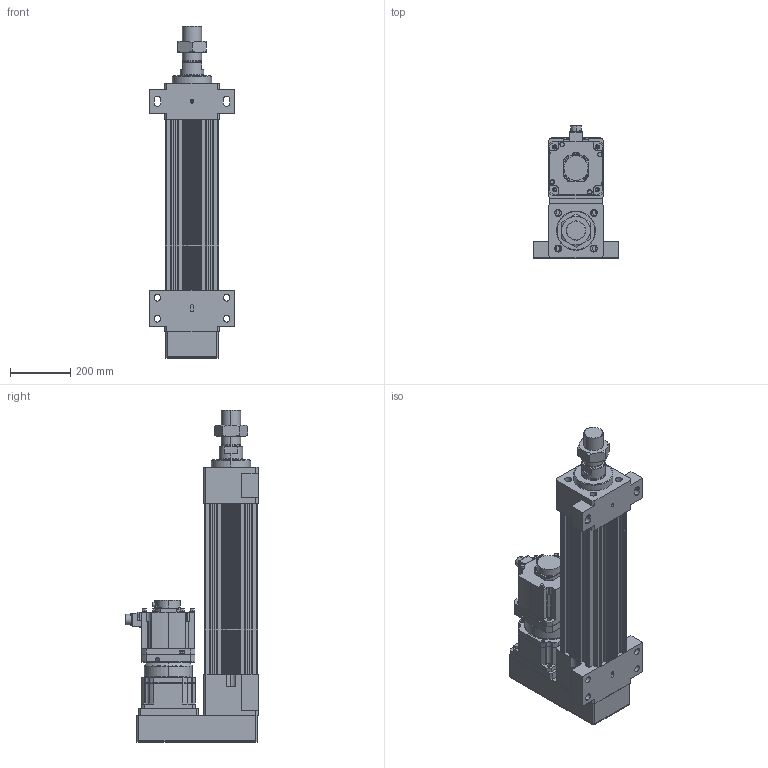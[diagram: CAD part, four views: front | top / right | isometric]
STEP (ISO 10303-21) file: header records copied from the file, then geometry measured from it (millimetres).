
FILE_DESCRIPTION (( 'STEP AP203' ), '1' );
FILE_NAME ('HES180HS-P250-W050G00-M-FFB.STEP', '2023-02-01T06:33:44', ( 'tms' ), ( '' ), 'SwSTEP 2.0', 'SolidWorks 2013', '' );
FILE_SCHEMA (( 'CONFIG_CONTROL_DESIGN' ));
Length unit declared in the file: millimetre
Products named in the file (9): HES180 ROD M ST250; HES180-P250-G180-FFB; AB180-003[HG-SR702B]; HG-SR502; HES180HS-P250-W050G00-M-FFB; P1301600001; AB1801; M64X2.0P; P0403600401
Assembly tree (8 placements, depth 3):
  HES180HS-P250-W050G00-M-FFB
    HES180-P250-G180-FFB
    HES180 ROD M ST250
    M64X2.0P
    AB180-003[HG-SR702B]
      AB1801
      P1301600001
      P0403600401
    HG-SR502
Bounding box: 280 x 438.85 x 1102 mm (x, y, z)
Volume: 26648788.5 mm3; surface area: 2233340.9 mm2
Topology: 4 solids, 19 shells, 1446 faces, 3761 edges, 2443 vertices
Faces by surface type: cylinder 668, plane 567, cone 144, bspline 63, torus 4
Entity records: 53114 total; most frequent: CARTESIAN_POINT 16078, DIRECTION 7777, ORIENTED_EDGE 7426, EDGE_CURVE 3737, AXIS2_PLACEMENT_3D 2922, VERTEX_POINT 2443, VECTOR 1933, LINE 1933
